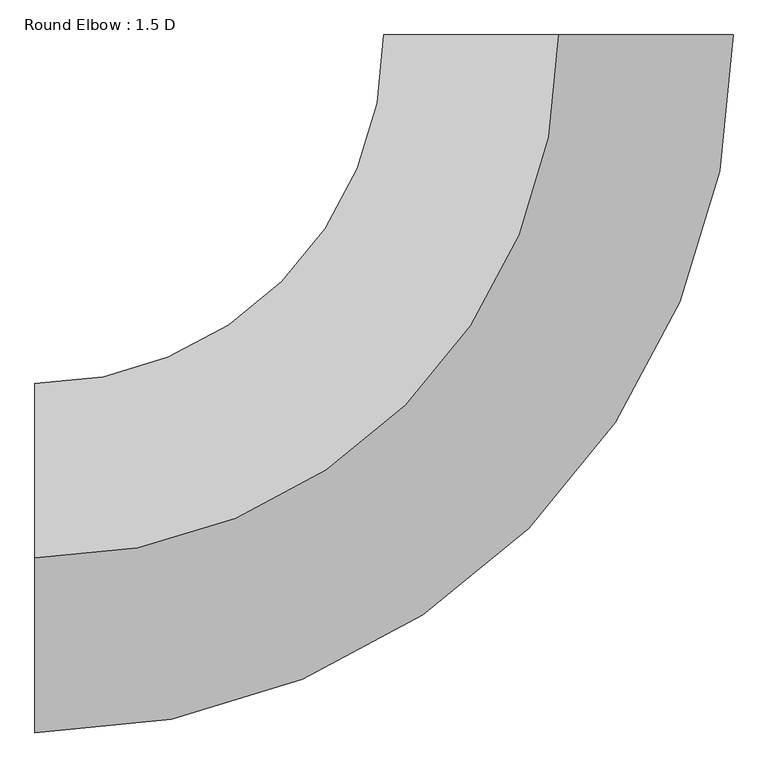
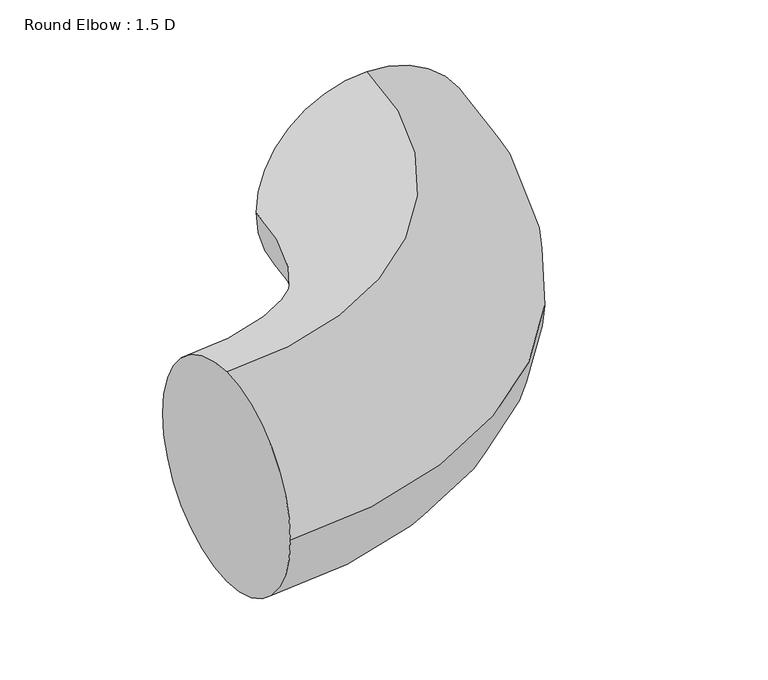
"""IFC4 building model written with IfcOpenShell, lengths in millimetres: duct fitting geometry, Round Elbow : 1.5 D."""

from ifc_helpers import new_model, si_unit, point, frame, origin, place, context, project, spatial, circle_curve, ellipse_curve, trimmed, source, transform, mapped, element, save
from ifc_brep_helpers import plane_surface, revolved_surface, advanced_brep


def round_elbow_1_5_d_15854769(model_context):
    return source(origin(), model_context, "Body", "AdvancedBrep", [
        advanced_brep(
        [(-914.4, 0.0, 304.8), (-914.4, 304.8, 0.0), (-914.4, 0.0, -304.8), (-914.4, -304.8, 0.0), (0.0, 914.4, 304.8), (304.8, 914.4, 0.0), (0.0, 914.4, -304.8), (-304.8, 914.4, 0.0)],
        [
            (0, 1, circle_curve(frame((-914.4, 0.0, 0.0), z_axis=(-1.0, 0.0, 0.0), x_axis=(0.0, 1.0, 0.0)), 304.8)),
            (1, 2, circle_curve(frame((-914.4, 0.0, 0.0), z_axis=(-1.0, 0.0, 0.0), x_axis=(0.0, 1.0, 0.0)), 304.8)),
            (2, 3, circle_curve(frame((-914.4, 0.0, 0.0), z_axis=(-1.0, 0.0, 0.0), x_axis=(0.0, 1.0, 0.0)), 304.8)),
            (3, 0, circle_curve(frame((-914.4, 0.0, 0.0), z_axis=(-1.0, 0.0, 0.0), x_axis=(0.0, 1.0, 0.0)), 304.8)),
            (4, 5, circle_curve(frame((0.0, 914.4, 0.0), z_axis=(0.0, 1.0, 0.0), x_axis=(-1.0, 0.0, 0.0)), 304.8)),
            (5, 6, circle_curve(frame((0.0, 914.4, 0.0), z_axis=(0.0, 1.0, 0.0), x_axis=(-1.0, 0.0, 0.0)), 304.8)),
            (6, 7, circle_curve(frame((0.0, 914.4, 0.0), z_axis=(0.0, 1.0, 0.0), x_axis=(-1.0, 0.0, 0.0)), 304.8)),
            (7, 4, circle_curve(frame((0.0, 914.4, 0.0), z_axis=(0.0, 1.0, 0.0), x_axis=(-1.0, 0.0, 0.0)), 304.8)),
            (7, 1, circle_curve(frame((-914.4, 914.4, 0.0), z_axis=(0.0, 0.0, -1.0), x_axis=(0.0, -1.0, 0.0)), 609.6)),
            (0, 4, circle_curve(frame((-914.4, 914.4, 304.8), z_axis=(0.0, 0.0, 1.0), x_axis=(0.0, -1.0, 0.0)), 914.4)),
            (6, 2, circle_curve(frame((-914.4, 914.4, -304.8), z_axis=(0.0, 0.0, -1.0), x_axis=(0.0, -1.0, 0.0)), 914.4)),
            (5, 3, circle_curve(frame((-914.4, 914.4, 0.0), z_axis=(0.0, 0.0, -1.0), x_axis=(0.0, -1.0, 0.0)), 1219.2)),
        ],
        [
            plane_surface(frame((-914.4, 0.0, 0.0), z_axis=(-1.0, 0.0, 0.0), x_axis=(0.0, 0.0, 1.0))),
            plane_surface(frame((0.0, 914.4, 0.0), z_axis=(0.0, 1.0, 0.0), x_axis=(0.0, 0.0, 1.0))),
            revolved_surface(trimmed(ellipse_curve(frame((-914.4, 0.0, 0.0), z_axis=(-1.0, 0.0, 0.0), x_axis=(0.0, 1.0, 0.0)), 304.8, 304.8), [point((-914.4, 0.0, 304.8))], [point((-914.4, 304.8, 0.0))], True, "CARTESIAN"), (-914.4, 914.4, 0.0), (0.0, 0.0, 1.0)),
            revolved_surface(trimmed(ellipse_curve(frame((-914.4, 0.0, 0.0), z_axis=(-1.0, 0.0, 0.0), x_axis=(0.0, 1.0, 0.0)), 304.8, 304.8), [point((-914.4, 304.8, 0.0))], [point((-914.4, 0.0, -304.8))], True, "CARTESIAN"), (-914.4, 914.4, 0.0), (0.0, 0.0, 1.0)),
            revolved_surface(trimmed(ellipse_curve(frame((-914.4, 0.0, 0.0), z_axis=(-1.0, 0.0, 0.0), x_axis=(0.0, 1.0, 0.0)), 304.8, 304.8), [point((-914.4, 0.0, -304.8))], [point((-914.4, -304.8, 0.0))], True, "CARTESIAN"), (-914.4, 914.4, 0.0), (0.0, 0.0, 1.0)),
            revolved_surface(trimmed(ellipse_curve(frame((-914.4, 0.0, 0.0), z_axis=(-1.0, 0.0, 0.0), x_axis=(0.0, 1.0, 0.0)), 304.8, 304.8), [point((-914.4, -304.8, 0.0))], [point((-914.4, 0.0, 304.8))], True, "CARTESIAN"), (-914.4, 914.4, 0.0), (0.0, 0.0, 1.0)),
        ],
        [
            (0, [[1, 2, 3, 4]]),
            (1, [[5, 6, 7, 8]]),
            (2, [[9, -1, 10, -8]]),
            (3, [[11, -2, -9, -7]]),
            (4, [[12, -3, -11, -6]]),
            (5, [[-10, -4, -12, -5]]),
        ],
    ),
    ])


if __name__ == "__main__":
    model = new_model("IFC4")
    model_context = context("Model", 3, world=origin())
    ifc_project = project(units=[si_unit("LENGTHUNIT", "METRE", prefix="MILLI")], contexts=[model_context])
    site = spatial("IfcSite", under=ifc_project)
    building = spatial("IfcBuilding", under=site)
    placement = place(None, origin())
    round_elbow_1_5_d_shape = round_elbow_1_5_d_15854769(model_context)
    element("IfcDuctFitting", 1, ObjectType="Round Elbow : 1.5 D", at=placement, inside=building, context=model_context, shape_type="MappedRepresentation", body=[
        mapped(round_elbow_1_5_d_shape, transform((0.0, 0.0, 0.0), x_axis=(1.0, 0.0, 0.0), y_axis=(0.0, 1.0, 0.0), z_axis=(0.0, 0.0, 1.0))),
    ])
    save(model, "model.ifc")
